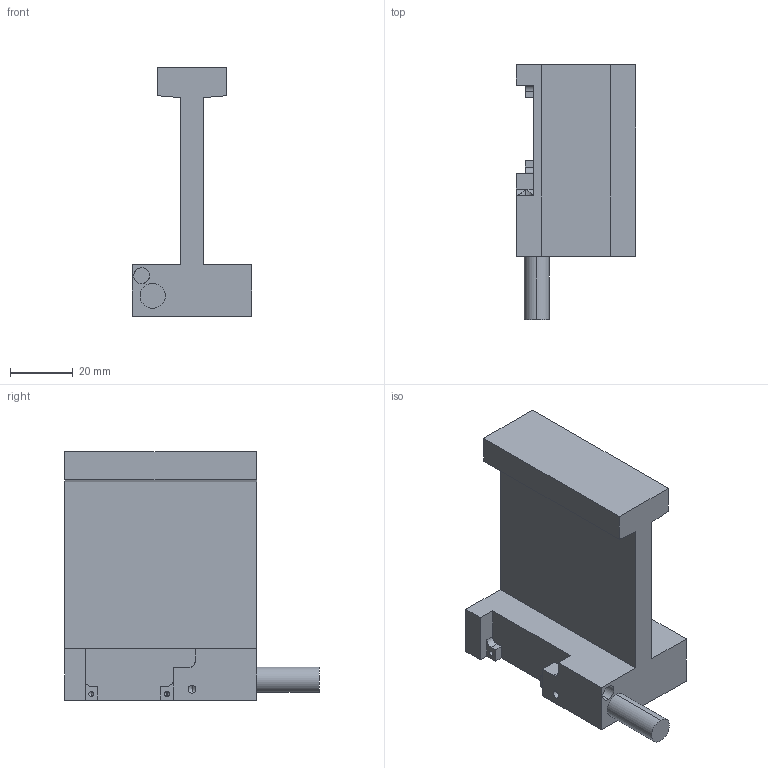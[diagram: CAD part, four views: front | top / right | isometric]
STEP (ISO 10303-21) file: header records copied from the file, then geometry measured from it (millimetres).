
FILE_DESCRIPTION (( 'STEP AP214' ), '1' );
FILE_NAME ('JKA41.STEP', '2025-09-05T08:43:01', ( '' ), ( '' ), 'SwSTEP 2.0', 'SolidWorks 2016', '' );
FILE_SCHEMA (( 'AUTOMOTIVE_DESIGN' ));
Length unit declared in the file: millimetre
Products named in the file (1): JKA41
Bounding box: 38 x 81 x 79 mm (x, y, z)
Volume: 71429.8 mm3; surface area: 19592.4 mm2
Topology: 1 solids, 1 shells, 68 faces, 179 edges, 105 vertices
Faces by surface type: plane 28, cylinder 24, cone 16
Entity records: 2206 total; most frequent: CARTESIAN_POINT 367, DIRECTION 346, ORIENTED_EDGE 326, EDGE_CURVE 163, AXIS2_PLACEMENT_3D 116, LINE 114, VECTOR 114, VERTEX_POINT 105
